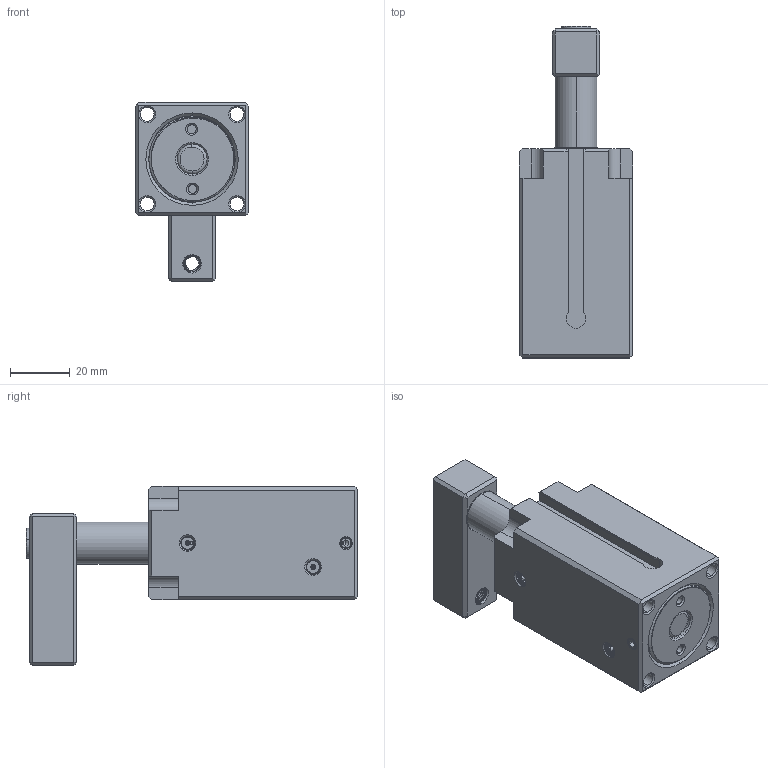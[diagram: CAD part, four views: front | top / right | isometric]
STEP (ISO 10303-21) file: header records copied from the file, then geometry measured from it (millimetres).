
FILE_DESCRIPTION (( 'STEP AP203' ), '1' );
FILE_NAME ('ASC-MS25S.STEP', '2013-09-21T09:15:06', ( '微软用户' ), ( '微软中国' ), 'SwSTEP 2.0', 'SolidWorks 2012', '' );
FILE_SCHEMA (( 'CONFIG_CONTROL_DESIGN' ));
Length unit declared in the file: millimetre
Products named in the file (12): ASC-MS25S; socket head cap screw_iso_ISO 4762 M6 x 25 --- 25S; _PreviewCfg; 揤旋; hex socket set screws with flat point gb_GB_FASTENER_SCREWS_HSFP M4X6-S; 滅鳥猾; 粣蚚猾; HUO; S裝; 埴翐种; 綴裔; 掛极
Assembly tree (12 placements, depth 2):
  ASC-MS25S
    掛极
    綴裔
    埴翐种
    S裝
    HUO
    粣蚚猾
    滅鳥猾
    hex socket set screws with flat point gb_GB_FASTENER_SCREWS_HSFP M4X6-S
    揤旋
    _PreviewCfg  x2
    socket head cap screw_iso_ISO 4762 M6 x 25 --- 25S
Bounding box: 38.04 x 111 x 60 mm (x, y, z)
Volume: 89670.9 mm3; surface area: 45790.3 mm2
Topology: 13 solids, 13 shells, 893 faces, 2214 edges, 1364 vertices
Faces by surface type: cylinder 328, cone 243, plane 178, torus 76, bspline 68
Entity records: 44373 total; most frequent: CARTESIAN_POINT 23352, ORIENTED_EDGE 4304, DIRECTION 4072, EDGE_CURVE 2152, AXIS2_PLACEMENT_3D 1629, VERTEX_POINT 1335, EDGE_LOOP 937, FACE_OUTER_BOUND 871
